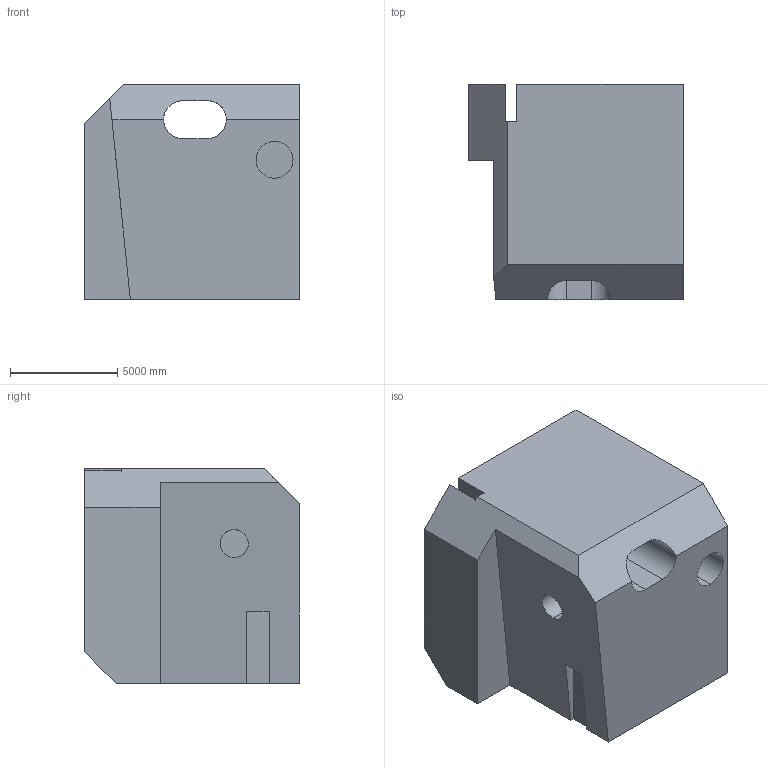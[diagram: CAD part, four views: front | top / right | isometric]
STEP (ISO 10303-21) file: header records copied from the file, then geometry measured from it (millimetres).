
FILE_DESCRIPTION (( 'STEP AP203' ), '1' );
FILE_NAME ('86.STEP', '2022-08-30T14:29:26', ( 'user' ), ( '' ), 'SwSTEP 2.0', 'SolidWorks 2021', '' );
FILE_SCHEMA (( 'CONFIG_CONTROL_DESIGN' ));
Length unit declared in the file: centimetre
Products named in the file (1): 86
Bounding box: 10000 x 10000 x 10000 mm (x, y, z)
Volume: 789547182557.6 mm3; surface area: 704313535.1 mm2
Topology: 1 solids, 1 shells, 30 faces, 81 edges, 54 vertices
Faces by surface type: plane 24, cylinder 6
Entity records: 1016 total; most frequent: CARTESIAN_POINT 178, ORIENTED_EDGE 162, DIRECTION 149, EDGE_CURVE 81, VECTOR 67, LINE 67, VERTEX_POINT 54, AXIS2_PLACEMENT_3D 41
